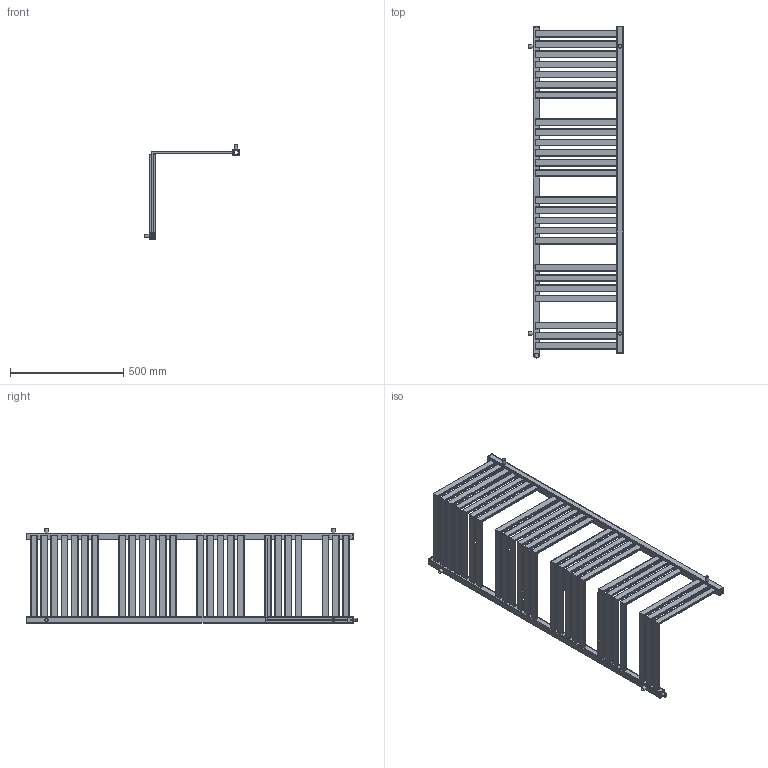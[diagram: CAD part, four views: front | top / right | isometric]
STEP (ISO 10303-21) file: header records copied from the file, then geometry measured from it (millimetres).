
FILE_DESCRIPTION( ( 'Unknown' ), '1' );
FILE_NAME( 'D:/Alplast sp. j/Witryna zespoBu - Projekty/Archiwum/Grzejniki Archiwum/Projekty/DESIGN PROGRAM/CORNER ALFA I BETA/CORNER BETA 6.stp', 'Unknown', ( 'Unknown' ), ( 'Unknown' ), 'PSStep 10.1', 'Unknown', ' ' );
FILE_SCHEMA( ( 'AUTOMOTIVE_DESIGN { 1 0 10303 214 1 1 1 1 }' ) );
Length unit declared in the file: millimetre
Products named in the file (6): Assem1; kana³ po giêciu; kana³y 30x10 czêœæ do giêcia; AK6-N; zaslepka kwadrat otwor; mocowanie
Bounding box: 420 x 1468 x 420 mm (x, y, z)
Volume: 2496102.2 mm3; surface area: 3716654.8 mm2
Topology: 66 solids, 66 shells, 1960 faces, 5507 edges, 3636 vertices
Faces by surface type: plane 1089, cylinder 861, torus 10
Full cylindrical faces by diameter (mm): 14 x5, 16 x5, 18.631 x5, 23 x5
Entity records: 11412 total; most frequent: DIRECTION 1641, CARTESIAN_POINT 1607, ORIENTED_EDGE 1534, EDGE_CURVE 767, AXIS2_PLACEMENT_3D 570, VERTEX_POINT 514, LINE 501, VECTOR 501
